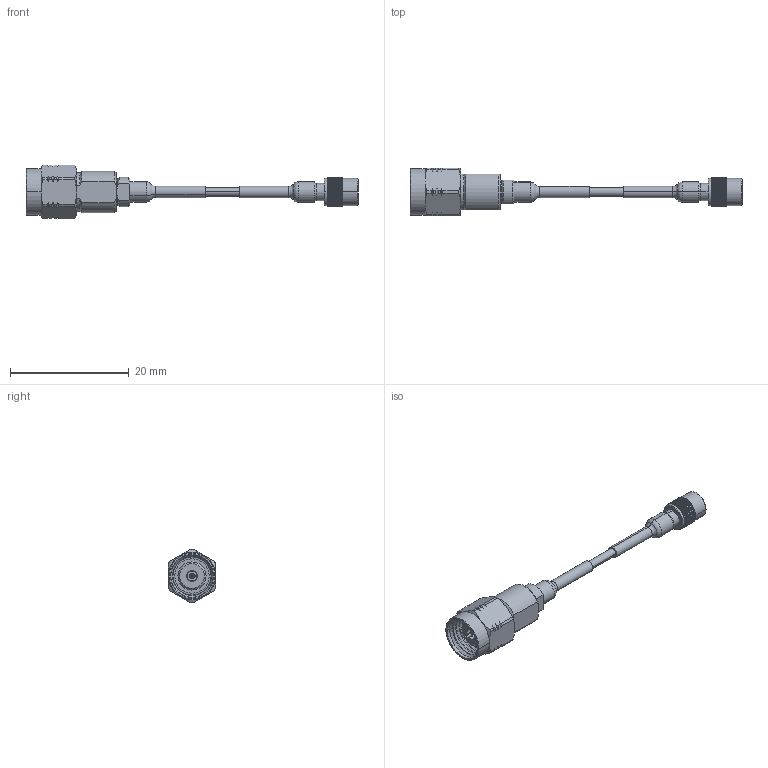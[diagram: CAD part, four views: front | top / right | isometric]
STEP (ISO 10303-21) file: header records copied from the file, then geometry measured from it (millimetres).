
FILE_DESCRIPTION (( 'STEP AP203' ), '1' );
FILE_NAME ('1V6S10474200.STEP', '2016-08-25T14:30:09', ( '' ), ( '' ), 'SwSTEP 2.0', 'SolidWorks 2014', '' );
FILE_SCHEMA (( 'CONFIG_CONTROL_DESIGN' ));
Length unit declared in the file: inch
Products named in the file (24): 101-2068-121470A_1; 101-2044-440000B; C6398-2_AS MACHINED; 101-2069-440470A_1; 101-2084-440000A; C6461-1; 101-2070-121470A_1; 101-2085-440470A; C6462-4; 102-1150-700000A_1; 103-1429-226470A; C6489-4; 4V69781010; 102-1130-700000A; P176TL-1CC_CORE GD CABLE END; TLL26-5047_Temp-flex 29 AWG COAX #047SC-29 01; 105-0064-400000A_1; 7211916111; 2200-18; 107-0005-900000B_1; 1V6S10474200; C6294-2; 59-10004-44471A; C6395-2
Assembly tree (24 placements, depth 4):
  1V6S10474200
    4V69781010
      59-10004-44471A
        101-2044-440000B
        101-2084-440000A
        101-2085-440470A
        103-1429-226470A
        102-1130-700000A
        105-0064-400000A_1
        107-0005-900000B_1
      101-2068-121470A_1
      101-2069-440470A_1
      101-2070-121470A_1
      102-1150-700000A_1
    TLL26-5047_Temp-flex 29 AWG COAX #047SC-29 01
    P176TL-1CC_CORE GD CABLE END
      2200-18
      C6294-2
      C6395-2
      C6398-2_AS MACHINED
      C6461-1
      C6462-4
      C6489-4
    7211916111  x2
Bounding box: 55.88 x 8 x 9 mm (x, y, z)
Volume: 694.6 mm3; surface area: 2720.7 mm2
Topology: 22 solids, 22 shells, 927 faces, 2358 edges, 1501 vertices
Faces by surface type: plane 329, cylinder 311, cone 214, bspline 37, torus 36
Entity records: 33612 total; most frequent: CARTESIAN_POINT 8918, DIRECTION 4648, ORIENTED_EDGE 4632, EDGE_CURVE 2316, AXIS2_PLACEMENT_3D 1744, VERTEX_POINT 1481, VECTOR 1160, LINE 1160
